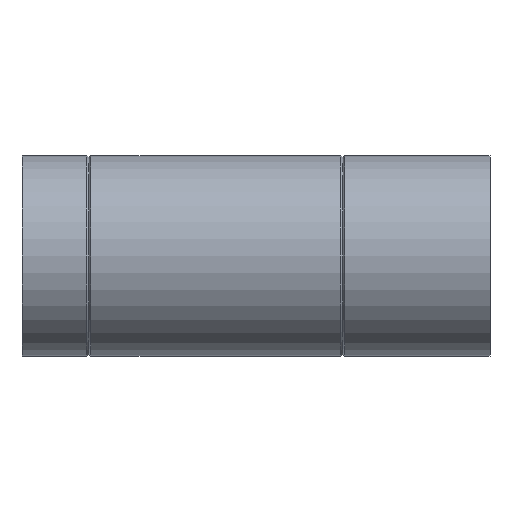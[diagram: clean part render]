
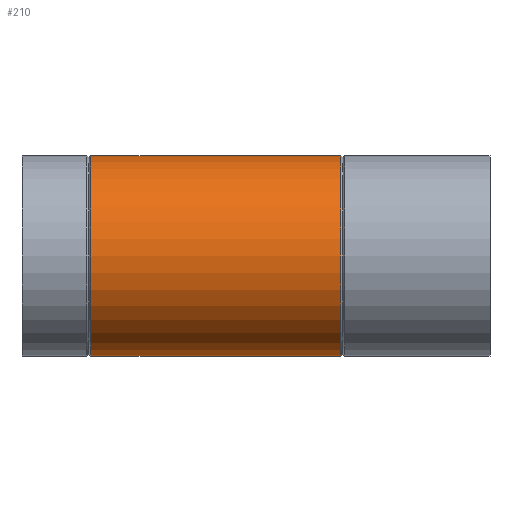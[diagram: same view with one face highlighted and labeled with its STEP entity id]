
A CAD part, left-side view. The second image highlights one B-rep face of the part: STEP entity #210.
In plain terms, the highlighted cylindrical face has radius 37.5 mm (diameter 75 mm), a full revolution.
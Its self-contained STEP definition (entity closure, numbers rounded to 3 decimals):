
#15=ELLIPSE($,#234,52.352,37.5);
#16=ELLIPSE($,#235,53.741,37.5);
#19=CYLINDRICAL_SURFACE($,#232,37.5);
#28=FACE_BOUND($,#65,.T.);
#29=FACE_BOUND($,#66,.T.);
#50=FACE_OUTER_BOUND($,#64,.T.);
#64=EDGE_LOOP($,(#151));
#65=EDGE_LOOP($,(#152,#153));
#66=EDGE_LOOP($,(#154));
#96=CIRCLE($,#231,37.5);
#97=CIRCLE($,#233,37.5);
#111=VERTEX_POINT($,#341);
#112=VERTEX_POINT($,#344);
#113=VERTEX_POINT($,#346);
#114=VERTEX_POINT($,#347);
#130=EDGE_CURVE($,#111,#111,#96,.T.);
#131=EDGE_CURVE($,#112,#112,#97,.T.);
#132=EDGE_CURVE($,#113,#114,#15,.T.);
#133=EDGE_CURVE($,#114,#113,#16,.T.);
#151=ORIENTED_EDGE($,*,*,#131,.T.);
#152=ORIENTED_EDGE($,*,*,#132,.T.);
#153=ORIENTED_EDGE($,*,*,#133,.T.);
#154=ORIENTED_EDGE($,*,*,#130,.T.);
#210=ADVANCED_FACE($,(#50,#28,#29),#19,.T.);
#231=AXIS2_PLACEMENT_3D($,#342,#272,#273);
#232=AXIS2_PLACEMENT_3D($,#343,#274,#275);
#233=AXIS2_PLACEMENT_3D($,#345,#276,#277);
#234=AXIS2_PLACEMENT_3D($,#348,#278,#279);
#235=AXIS2_PLACEMENT_3D($,#349,#280,#281);
#272=DIRECTION('center_axis',(0.,-1.,0.));
#273=DIRECTION('ref_axis',(1.,0.,0.));
#274=DIRECTION('center_axis',(0.,1.,0.));
#275=DIRECTION('ref_axis',(1.,0.,0.));
#276=DIRECTION('center_axis',(0.,1.,0.));
#277=DIRECTION('ref_axis',(1.,0.,0.));
#278=DIRECTION('center_axis',(-0.698,-0.716,0.));
#279=DIRECTION('ref_axis',(0.716,-0.698,0.));
#280=DIRECTION('center_axis',(-0.716,0.698,0.));
#281=DIRECTION('ref_axis',(-0.698,-0.716,0.));
#341=CARTESIAN_POINT('',(37.5,149.25,0.));
#342=CARTESIAN_POINT('Origin',(0.,149.25,0.));
#343=CARTESIAN_POINT('Origin',(0.,0.,0.));
#344=CARTESIAN_POINT('',(-37.5,55.75,0.));
#345=CARTESIAN_POINT('Origin',(0.,55.75,0.));
#346=CARTESIAN_POINT('',(0.,105.,-37.5));
#347=CARTESIAN_POINT('',(0.,105.,37.5));
#348=CARTESIAN_POINT('Origin',(0.,105.,0.));
#349=CARTESIAN_POINT('Origin',(0.,105.,0.));
